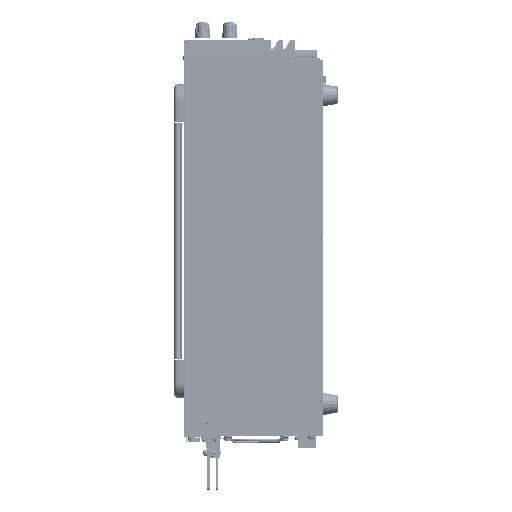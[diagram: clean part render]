
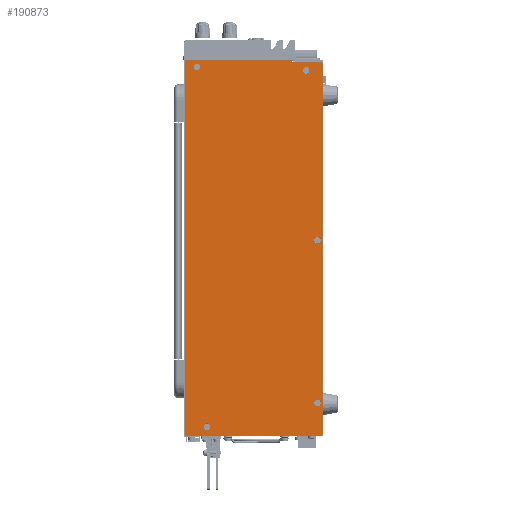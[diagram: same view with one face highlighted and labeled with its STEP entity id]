
A CAD part, left-side view. The second image highlights one B-rep face of the part: STEP entity #190873.
In plain terms, the highlighted planar face has unit normal (-1, 0, 0).
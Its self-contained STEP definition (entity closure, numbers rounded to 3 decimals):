
#188277=CARTESIAN_POINT('',(-177.2,112.,-6.));
#188278=DIRECTION('',(-1.,0.,0.));
#188279=DIRECTION('',(0.,1.,0.));
#188280=AXIS2_PLACEMENT_3D('',#188277,#188278,#188279);
#188282=CARTESIAN_POINT('',(-177.2,112.,-6.));
#188283=DIRECTION('',(-1.,0.,0.));
#188284=DIRECTION('',(0.,-1.,0.));
#188285=AXIS2_PLACEMENT_3D('',#188282,#188283,#188284);
#188287=CARTESIAN_POINT('',(-177.2,15.2,-9.));
#188288=DIRECTION('',(-1.,0.,0.));
#188289=DIRECTION('',(0.,1.,0.));
#188290=AXIS2_PLACEMENT_3D('',#188287,#188288,#188289);
#188292=CARTESIAN_POINT('',(-177.2,15.2,-9.));
#188293=DIRECTION('',(-1.,0.,0.));
#188294=DIRECTION('',(0.,-1.,0.));
#188295=AXIS2_PLACEMENT_3D('',#188292,#188293,#188294);
#188297=CARTESIAN_POINT('',(-177.2,5.2,-159.));
#188298=DIRECTION('',(-1.,0.,0.));
#188299=DIRECTION('',(0.,1.,0.));
#188300=AXIS2_PLACEMENT_3D('',#188297,#188298,#188299);
#188302=CARTESIAN_POINT('',(-177.2,5.2,-159.));
#188303=DIRECTION('',(-1.,0.,0.));
#188304=DIRECTION('',(0.,-1.,0.));
#188305=AXIS2_PLACEMENT_3D('',#188302,#188303,#188304);
#188307=CARTESIAN_POINT('',(-177.2,5.2,-303.));
#188308=DIRECTION('',(-1.,0.,0.));
#188309=DIRECTION('',(0.,1.,0.));
#188310=AXIS2_PLACEMENT_3D('',#188307,#188308,#188309);
#188312=CARTESIAN_POINT('',(-177.2,5.2,-303.));
#188313=DIRECTION('',(-1.,0.,0.));
#188314=DIRECTION('',(0.,-1.,0.));
#188315=AXIS2_PLACEMENT_3D('',#188312,#188313,#188314);
#188317=CARTESIAN_POINT('',(-177.2,103.,-324.));
#188318=DIRECTION('',(-1.,0.,0.));
#188319=DIRECTION('',(0.,1.,0.));
#188320=AXIS2_PLACEMENT_3D('',#188317,#188318,#188319);
#188322=CARTESIAN_POINT('',(-177.2,103.,-324.));
#188323=DIRECTION('',(-1.,0.,0.));
#188324=DIRECTION('',(0.,-1.,0.));
#188325=AXIS2_PLACEMENT_3D('',#188322,#188323,#188324);
#188327=CARTESIAN_POINT('',(-177.2,2.5,-330.5));
#188328=DIRECTION('',(-1.,0.,0.));
#188329=DIRECTION('',(0.,0.,-1.));
#188330=AXIS2_PLACEMENT_3D('',#188327,#188328,#188329);
#188332=DIRECTION('',(0.,0.,1.));
#188333=VECTOR('',#188332,332.5);
#188334=CARTESIAN_POINT('',(-177.2,122.9,-332.5));
#188335=LINE('',#188334,#188333);
#188336=DIRECTION('',(0.,0.,-1.));
#188337=VECTOR('',#188336,1.3);
#188338=CARTESIAN_POINT('',(-177.2,27.6,0.));
#188339=LINE('',#188338,#188337);
#188340=DIRECTION('',(0.,1.,0.));
#188341=VECTOR('',#188340,25.1);
#188342=CARTESIAN_POINT('',(-177.2,2.5,-1.3));
#188343=LINE('',#188342,#188341);
#188344=CARTESIAN_POINT('',(-177.2,2.5,-3.3));
#188345=DIRECTION('',(-1.,0.,0.));
#188346=DIRECTION('',(0.,-1.,0.));
#188347=AXIS2_PLACEMENT_3D('',#188344,#188345,#188346);
#188349=DIRECTION('',(0.,0.,-1.));
#188350=VECTOR('',#188349,327.2);
#188351=CARTESIAN_POINT('',(-177.2,0.5,-3.3));
#188352=LINE('',#188351,#188350);
#188397=DIRECTION('',(0.,1.,0.));
#188398=VECTOR('',#188397,120.4);
#188399=CARTESIAN_POINT('',(-177.2,2.5,-332.5));
#188400=LINE('',#188399,#188398);
#188421=DIRECTION('',(0.,1.,0.));
#188422=VECTOR('',#188421,95.3);
#188423=CARTESIAN_POINT('',(-177.2,27.6,0.));
#188424=LINE('',#188423,#188422);
#188787=CARTESIAN_POINT('',(-177.2,122.9,-332.5));
#188788=CARTESIAN_POINT('',(-177.2,122.9,0.));
#188789=VERTEX_POINT('',#188787);
#188790=VERTEX_POINT('',#188788);
#188795=CARTESIAN_POINT('',(-177.2,27.6,0.));
#188796=CARTESIAN_POINT('',(-177.2,27.6,-1.3));
#188797=VERTEX_POINT('',#188795);
#188798=VERTEX_POINT('',#188796);
#188848=CARTESIAN_POINT('',(-177.2,114.893,-6.));
#188850=VERTEX_POINT('',#188848);
#188852=CARTESIAN_POINT('',(-177.2,109.107,-6.));
#188854=VERTEX_POINT('',#188852);
#188856=CARTESIAN_POINT('',(-177.2,18.093,-9.));
#188858=VERTEX_POINT('',#188856);
#188860=CARTESIAN_POINT('',(-177.2,12.307,-9.));
#188862=VERTEX_POINT('',#188860);
#188864=CARTESIAN_POINT('',(-177.2,8.093,-159.));
#188866=VERTEX_POINT('',#188864);
#188868=CARTESIAN_POINT('',(-177.2,2.307,-159.));
#188870=VERTEX_POINT('',#188868);
#188872=CARTESIAN_POINT('',(-177.2,8.093,-303.));
#188874=VERTEX_POINT('',#188872);
#188876=CARTESIAN_POINT('',(-177.2,2.307,-303.));
#188878=VERTEX_POINT('',#188876);
#188880=CARTESIAN_POINT('',(-177.2,105.893,-324.));
#188882=VERTEX_POINT('',#188880);
#188884=CARTESIAN_POINT('',(-177.2,100.107,-324.));
#188886=VERTEX_POINT('',#188884);
#189256=CARTESIAN_POINT('',(-177.2,2.5,-332.5));
#189257=VERTEX_POINT('',#189256);
#189258=CARTESIAN_POINT('',(-177.2,0.5,-330.5));
#189259=VERTEX_POINT('',#189258);
#189264=CARTESIAN_POINT('',(-177.2,0.5,-3.3));
#189265=VERTEX_POINT('',#189264);
#189266=CARTESIAN_POINT('',(-177.2,2.5,-1.3));
#189267=VERTEX_POINT('',#189266);
#190822=CARTESIAN_POINT('',(-177.2,0.5,0.));
#190823=DIRECTION('',(1.,0.,0.));
#190824=DIRECTION('',(0.,1.,0.));
#190825=AXIS2_PLACEMENT_3D('',#190822,#190823,#190824);
#190826=PLANE('',#190825);
#190828=ORIENTED_EDGE('',*,*,#190827,.F.);
#190830=ORIENTED_EDGE('',*,*,#190829,.T.);
#190832=ORIENTED_EDGE('',*,*,#190831,.T.);
#190834=ORIENTED_EDGE('',*,*,#190833,.F.);
#190836=ORIENTED_EDGE('',*,*,#190835,.T.);
#190838=ORIENTED_EDGE('',*,*,#190837,.F.);
#190840=ORIENTED_EDGE('',*,*,#190839,.F.);
#190842=ORIENTED_EDGE('',*,*,#190841,.T.);
#190843=EDGE_LOOP('',(#190828,#190830,#190832,#190834,#190836,#190838,#190840,
#190842));
#190844=FACE_OUTER_BOUND('',#190843,.F.);
#190846=ORIENTED_EDGE('',*,*,#190845,.T.);
#190848=ORIENTED_EDGE('',*,*,#190847,.T.);
#190849=EDGE_LOOP('',(#190846,#190848));
#190850=FACE_BOUND('',#190849,.F.);
#190852=ORIENTED_EDGE('',*,*,#190851,.T.);
#190854=ORIENTED_EDGE('',*,*,#190853,.T.);
#190855=EDGE_LOOP('',(#190852,#190854));
#190856=FACE_BOUND('',#190855,.F.);
#190858=ORIENTED_EDGE('',*,*,#190857,.T.);
#190860=ORIENTED_EDGE('',*,*,#190859,.T.);
#190861=EDGE_LOOP('',(#190858,#190860));
#190862=FACE_BOUND('',#190861,.F.);
#190864=ORIENTED_EDGE('',*,*,#190863,.T.);
#190866=ORIENTED_EDGE('',*,*,#190865,.T.);
#190867=EDGE_LOOP('',(#190864,#190866));
#190868=FACE_BOUND('',#190867,.F.);
#190869=ORIENTED_EDGE('',*,*,#190804,.T.);
#190870=ORIENTED_EDGE('',*,*,#190815,.T.);
#190871=EDGE_LOOP('',(#190869,#190870));
#190872=FACE_BOUND('',#190871,.F.);
#190873=ADVANCED_FACE('',(#190844,#190850,#190856,#190862,#190868,#190872),
#190826,.F.);
#188281=CIRCLE('',#188280,2.893);
#188286=CIRCLE('',#188285,2.893);
#188291=CIRCLE('',#188290,2.893);
#188296=CIRCLE('',#188295,2.893);
#188301=CIRCLE('',#188300,2.893);
#188306=CIRCLE('',#188305,2.893);
#188311=CIRCLE('',#188310,2.893);
#188316=CIRCLE('',#188315,2.893);
#188321=CIRCLE('',#188320,2.893);
#188326=CIRCLE('',#188325,2.893);
#188331=CIRCLE('',#188330,2.);
#188348=CIRCLE('',#188347,2.);
#190804=EDGE_CURVE('',#188850,#188854,#188281,.T.);
#190815=EDGE_CURVE('',#188854,#188850,#188286,.T.);
#190827=EDGE_CURVE('',#189257,#189259,#188331,.T.);
#190829=EDGE_CURVE('',#189257,#188789,#188400,.T.);
#190831=EDGE_CURVE('',#188789,#188790,#188335,.T.);
#190833=EDGE_CURVE('',#188797,#188790,#188424,.T.);
#190835=EDGE_CURVE('',#188797,#188798,#188339,.T.);
#190837=EDGE_CURVE('',#189267,#188798,#188343,.T.);
#190839=EDGE_CURVE('',#189265,#189267,#188348,.T.);
#190841=EDGE_CURVE('',#189265,#189259,#188352,.T.);
#190845=EDGE_CURVE('',#188858,#188862,#188291,.T.);
#190847=EDGE_CURVE('',#188862,#188858,#188296,.T.);
#190851=EDGE_CURVE('',#188866,#188870,#188301,.T.);
#190853=EDGE_CURVE('',#188870,#188866,#188306,.T.);
#190857=EDGE_CURVE('',#188874,#188878,#188311,.T.);
#190859=EDGE_CURVE('',#188878,#188874,#188316,.T.);
#190863=EDGE_CURVE('',#188882,#188886,#188321,.T.);
#190865=EDGE_CURVE('',#188886,#188882,#188326,.T.);
